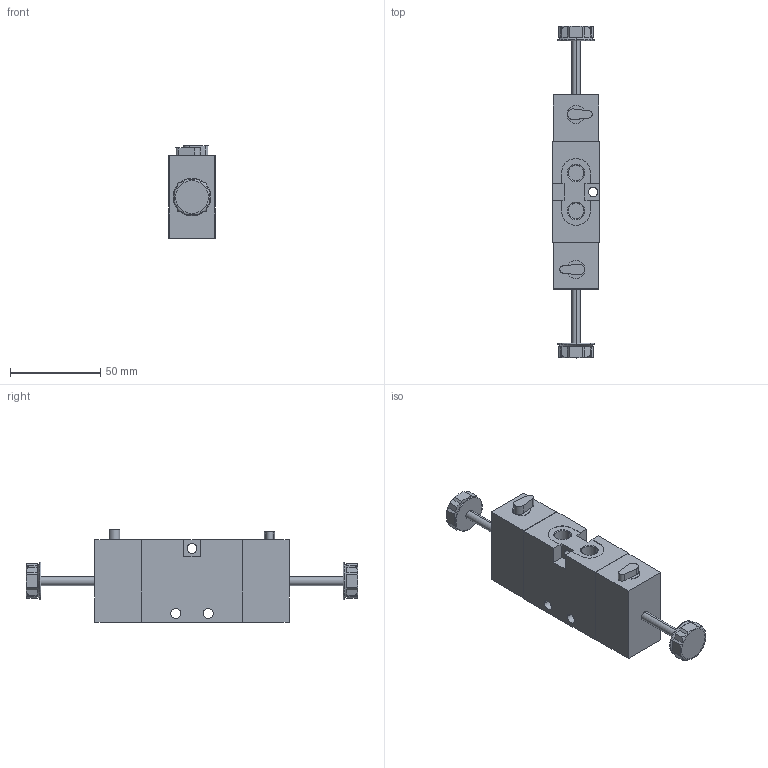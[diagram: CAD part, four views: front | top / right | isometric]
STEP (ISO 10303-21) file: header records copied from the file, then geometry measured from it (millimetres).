
FILE_DESCRIPTION((''),'2;1');
FILE_NAME('5777265302','2018-07-11T',('tng2hc'),(''),'CREO PARAMETRIC BY PTC INC, 2016260','CREO PARAMETRIC BY PTC INC, 2016260','');
FILE_SCHEMA(('CONFIG_CONTROL_DESIGN'));
Length unit declared in the file: millimetre
Products named in the file (1): 5777265302
Bounding box: 26 x 184 x 51.4 mm (x, y, z)
Volume: 127474.7 mm3; surface area: 24728.3 mm2
Topology: 1 solids, 1 shells, 150 faces, 376 edges, 246 vertices
Faces by surface type: plane 92, cylinder 36, cone 14, torus 8
Entity records: 5121 total; most frequent: CARTESIAN_POINT 1432, ORIENTED_EDGE 752, DIRECTION 738, EDGE_CURVE 376, AXIS2_PLACEMENT_3D 256, VERTEX_POINT 246, VECTOR 226, LINE 226
